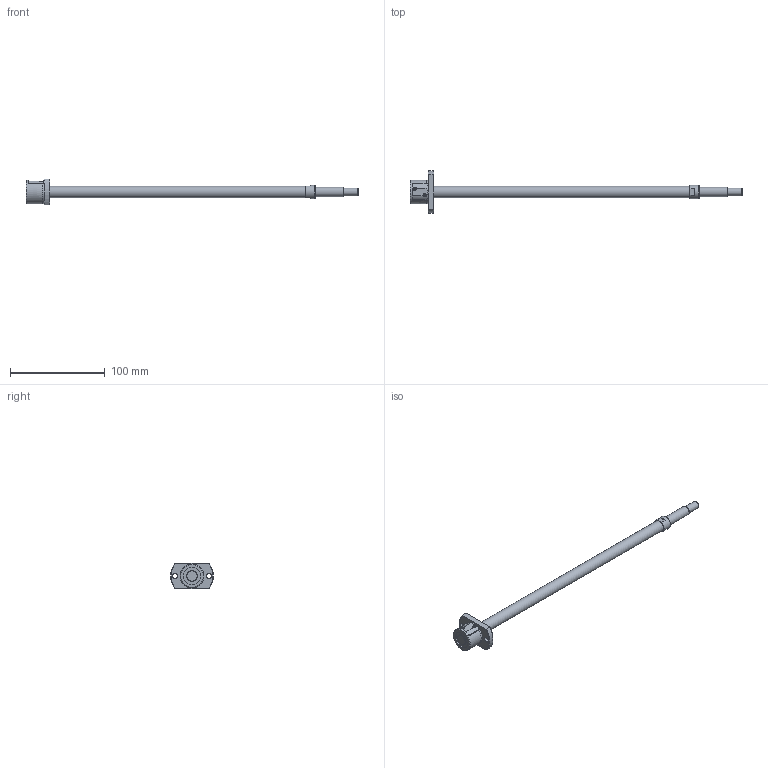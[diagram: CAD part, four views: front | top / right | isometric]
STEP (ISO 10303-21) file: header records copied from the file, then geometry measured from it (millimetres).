
FILE_DESCRIPTION( ( 'STEP AP203' ), '1' );
FILE_NAME( 'e:/temp/worker_91/temp/exporttempdir_4428_1384_UqVKD/format_0/SG1202-291R350C5A1X(0).stp', '2021-10-19T02:57:48', ( 'License CC BY-ND 4.0' ), ( 'CADENAS' ), ' ', 'PARTsolutions', ' ' );
FILE_SCHEMA( ( 'CONFIG_CONTROL_DESIGN' ) );
Length unit declared in the file: millimetre
Products named in the file (3): SG1202-291R350C5A1X(0); _SG1202-291R350C5A_shaft; _SG1202 C5_nut
Assembly tree (2 placements, depth 2):
  SG1202-291R350C5A1X(0)
    _SG1202-291R350C5A_shaft
    _SG1202 C5_nut
Bounding box: 350 x 45 x 27 mm (x, y, z)
Volume: 50411.1 mm3; surface area: 18571.4 mm2
Topology: 2 solids, 2 shells, 72 faces, 178 edges, 117 vertices
Faces by surface type: plane 35, cylinder 23, cone 13, torus 1
Full cylindrical faces by diameter (mm): 5.5 x2, 8 x1, 10 x1, 12 x2, 14 x1, 18 x2, 24.5 x1, 25 x1
Entity records: 2112 total; most frequent: CARTESIAN_POINT 409, DIRECTION 346, ORIENTED_EDGE 292, EDGE_CURVE 146, AXIS2_PLACEMENT_3D 143, EDGE_LOOP 106, VERTEX_POINT 106, FACE_OUTER_BOUND 84
